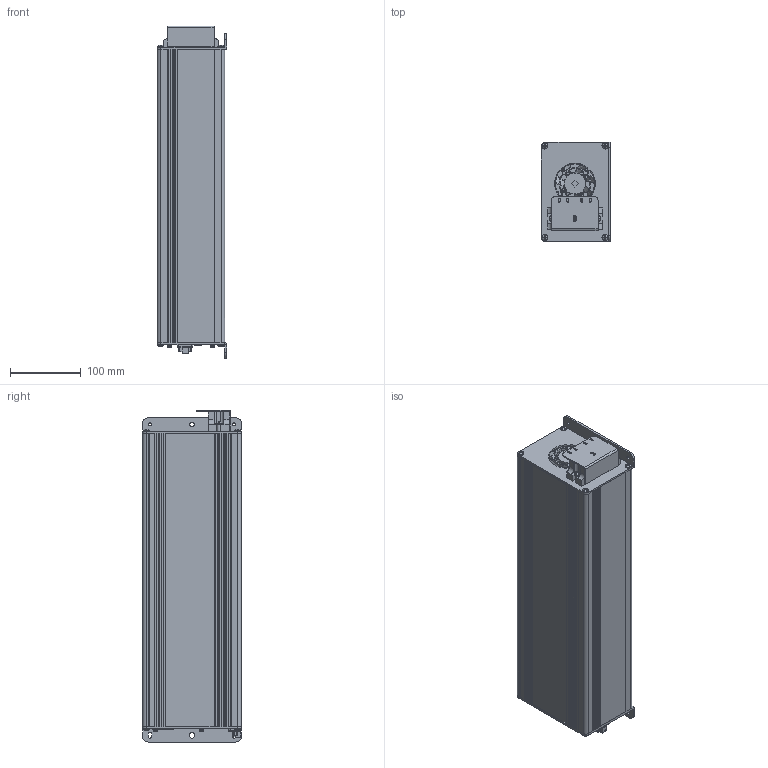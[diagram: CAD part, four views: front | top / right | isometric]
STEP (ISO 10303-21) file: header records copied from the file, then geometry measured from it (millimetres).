
FILE_DESCRIPTION(/* description */ (''),/* implementation_level */ '2;1');
FILE_NAME(/* name */ '',/* time_stamp */ '2026-07-14T16:05:44+09:00',/* author */ ('Administrator'),/* organization */ (''),/* preprocessor_version */ 'ST-DEVELOPER v20.1',/* originating_system */ 'Autodesk Inventor 2026',/* authorisation */ '');
FILE_SCHEMA (('AUTOMOTIVE_DESIGN { 1 0 10303 214 3 1 1 }'));
Products named in the file (1): OLED DH415COM_단순화_1
Bounding box: 98.5 x 140 x 469.88 mm (x, y, z)
Volume: 779891.7 mm3; surface area: 559660.6 mm2
Topology: 9 solids, 9 shells, 5198 faces, 13841 edges, 9036 vertices
Faces by surface type: plane 3006, bspline 1073, cylinder 981, torus 106, sphere 21, cone 11
Full cylindrical faces by diameter (mm): 0.013 x9, 0.457 x2, 0.6 x3, 0.61 x27, 0.635 x9, 0.7 x18, 0.75 x18, 0.85 x3, 0.9 x20, 1 x5, 1.397 x9, 1.5 x4, 2.1 x4, 2.286 x9, 2.4 x2, 2.5 x4, 2.8 x10, 2.9 x2, 2.957 x8, 3 x4, 3.048 x4, 3.4 x5, 3.8 x10, 3.9 x2, 4 x15, 4.3 x4, 4.4 x2, 4.5 x10, 5 x8, 5.4 x4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
Entity records: 184379 total; most frequent: CARTESIAN_POINT 54471, ORIENTED_EDGE 27644, DIRECTION 22302, EDGE_CURVE 13822, VERTEX_POINT 9035, LINE 8836, VECTOR 8836, AXIS2_PLACEMENT_3D 6733
